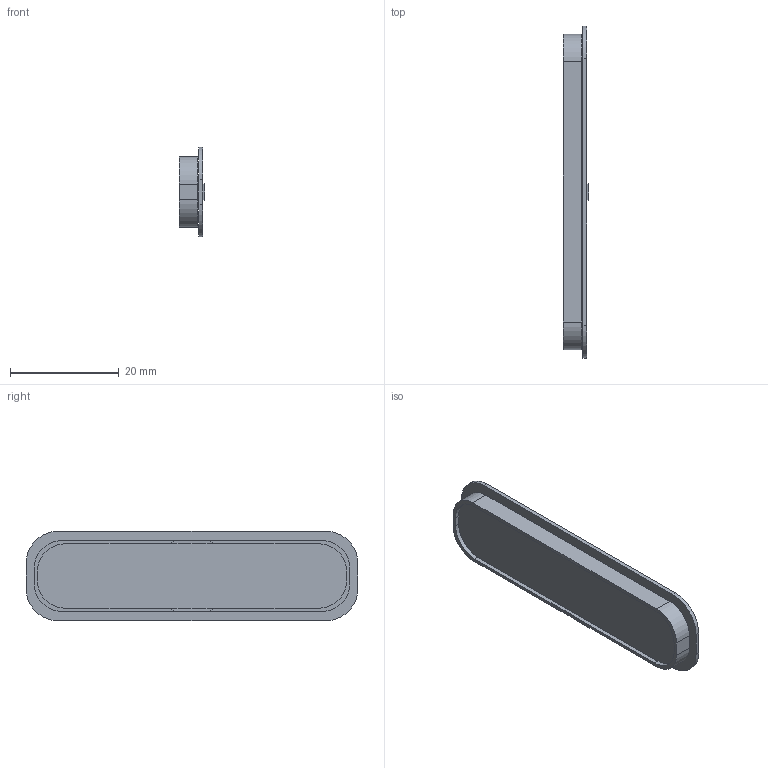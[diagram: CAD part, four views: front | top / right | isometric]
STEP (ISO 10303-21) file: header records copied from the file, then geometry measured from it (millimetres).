
FILE_DESCRIPTION(('Open CASCADE Model'),'2;1');
FILE_NAME('Open CASCADE Shape Model','2026-09-04T20:18:27',('Author'),( 'Open CASCADE'),'Open CASCADE STEP processor 7.7','Open CASCADE 7.7' ,'Unknown');
FILE_SCHEMA(('AUTOMOTIVE_DESIGN { 1 0 10303 214 1 1 1 1 }'));
Length unit declared in the file: millimetre
Products named in the file (1): Open CASCADE STEP translator 7.7 9
Bounding box: 4.65 x 61 x 16.5 mm (x, y, z)
Volume: 2656.2 mm3; surface area: 4059.3 mm2
Topology: 1 solids, 1 shells, 41 faces, 108 edges, 72 vertices
Faces by surface type: plane 27, cylinder 12, sphere 2
Entity records: 2842 total; most frequent: CARTESIAN_POINT 660, DIRECTION 416, LINE 256, VECTOR 256, ORIENTED_EDGE 216, PCURVE 216, DEFINITIONAL_REPRESENTATION 216, EDGE_CURVE 108
